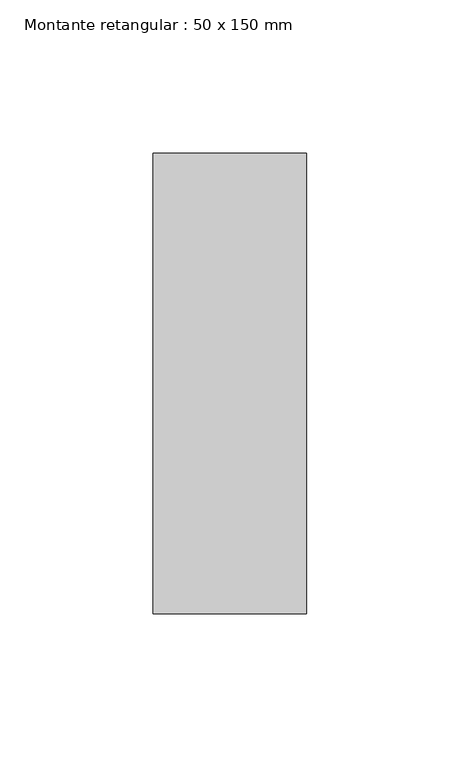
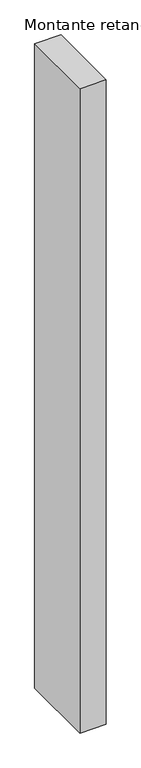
"""IFC4 building model written with IfcOpenShell, lengths in millimetres: member geometry, Montante retangular : 50 x 150 mm."""

from ifc_helpers import new_model, si_unit, frame, origin, place, context, project, spatial, polyline, outline, extrude, source, transform, mapped, element, save


def montante_retangular_50_x_150_mm_1e3c48d4(model_context):
    return source(origin(), model_context, "Body", "SweptSolid", [
        extrude(outline(polyline([(0.0, 75.0), (0.0, -75.0), (-50.0, -75.0), (-50.0, 75.0), (0.0, 75.0)])), frame((0.0, 0.0, -1300.0), z_axis=(0.0, 0.0, 1.0), x_axis=(1.0, 0.0, 0.0)), (0.0, 0.0, 1.0), 1300.0),
    ])


if __name__ == "__main__":
    model = new_model("IFC4")
    model_context = context("Model", 3, world=origin())
    ifc_project = project(units=[si_unit("LENGTHUNIT", "METRE", prefix="MILLI")], contexts=[model_context])
    site = spatial("IfcSite", under=ifc_project)
    building = spatial("IfcBuilding", under=site)
    placement = place(None, origin())
    montante_retangular_50_x_150_mm_shape = montante_retangular_50_x_150_mm_1e3c48d4(model_context)
    element("IfcMember", 1, ObjectType="Montante retangular : 50 x 150 mm", at=placement, inside=building, context=model_context, shape_type="MappedRepresentation", body=[
        mapped(montante_retangular_50_x_150_mm_shape, transform((0.0, 0.0, 0.0), x_axis=(1.0, 0.0, 0.0), y_axis=(0.0, 1.0, 0.0), z_axis=(0.0, 0.0, 1.0))),
    ])
    save(model, "model.ifc")
